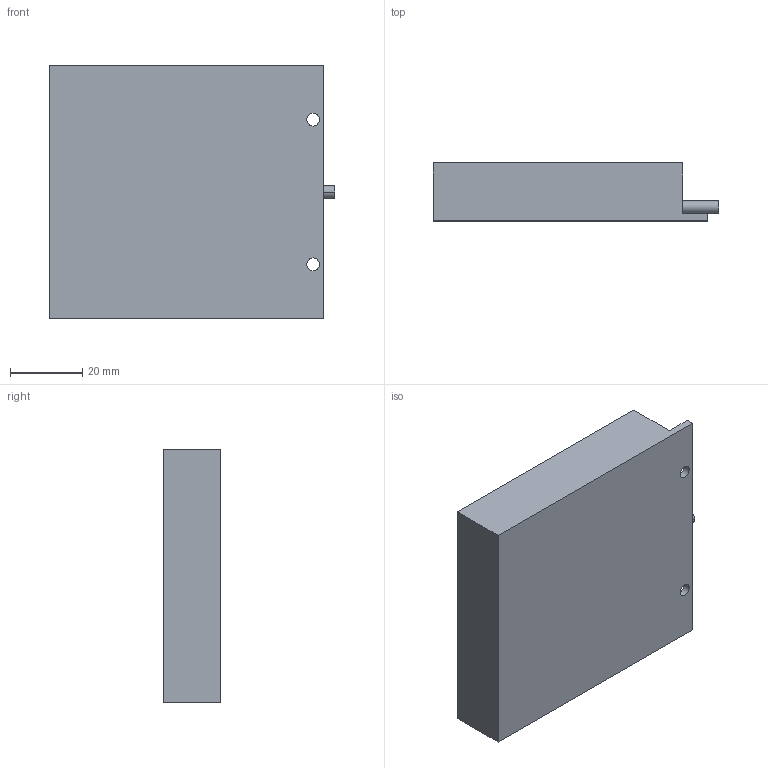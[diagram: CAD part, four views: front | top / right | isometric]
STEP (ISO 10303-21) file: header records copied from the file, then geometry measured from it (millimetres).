
FILE_DESCRIPTION (( 'STEP AP203' ), '1' );
FILE_NAME ('CST-HFS6060-¼òÒ×3DÍ¼.STEP', '2020-04-29T07:39:44', ( '' ), ( '' ), 'SwSTEP 2.0', 'SolidWorks 2014', '' );
FILE_SCHEMA (( 'CONFIG_CONTROL_DESIGN' ));
Length unit declared in the file: millimetre
Products named in the file (1): CST-HFS6060-潠眢3D芞
Bounding box: 79 x 16 x 70 mm (x, y, z)
Volume: 74717.7 mm3; surface area: 15471.5 mm2
Topology: 1 solids, 1 shells, 20 faces, 48 edges, 32 vertices
Faces by surface type: plane 14, cylinder 6
Entity records: 669 total; most frequent: DIRECTION 102, CARTESIAN_POINT 101, ORIENTED_EDGE 96, EDGE_CURVE 48, LINE 36, VECTOR 36, AXIS2_PLACEMENT_3D 33, VERTEX_POINT 32
